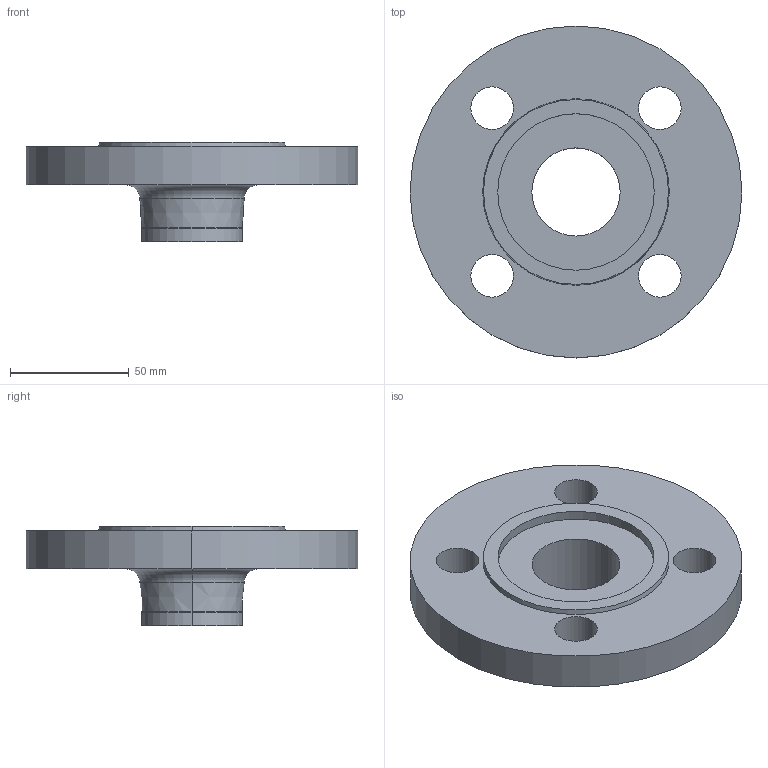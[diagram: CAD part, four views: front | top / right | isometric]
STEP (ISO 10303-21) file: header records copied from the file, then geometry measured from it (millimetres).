
FILE_DESCRIPTION (( 'STEP AP214' ), '1' );
FILE_NAME ('PN40 DN32 Type 11 - Type F Face.STEP', '2018-12-29T23:59:21', ( '' ), ( '' ), 'SwSTEP 2.0', 'SolidWorks 2019', '' );
FILE_SCHEMA (( 'AUTOMOTIVE_DESIGN' ));
Length unit declared in the file: millimetre
Products named in the file (1): PN40 DN32 Type 11 - Type F Face
Bounding box: 140 x 140 x 42 mm (x, y, z)
Volume: 220991.2 mm3; surface area: 45730 mm2
Topology: 1 solids, 1 shells, 29 faces, 66 edges, 42 vertices
Faces by surface type: cylinder 16, plane 5, torus 4, cone 4
Entity records: 892 total; most frequent: DIRECTION 172, CARTESIAN_POINT 138, ORIENTED_EDGE 132, AXIS2_PLACEMENT_3D 76, EDGE_CURVE 66, CIRCLE 46, EDGE_LOOP 42, VERTEX_POINT 42
